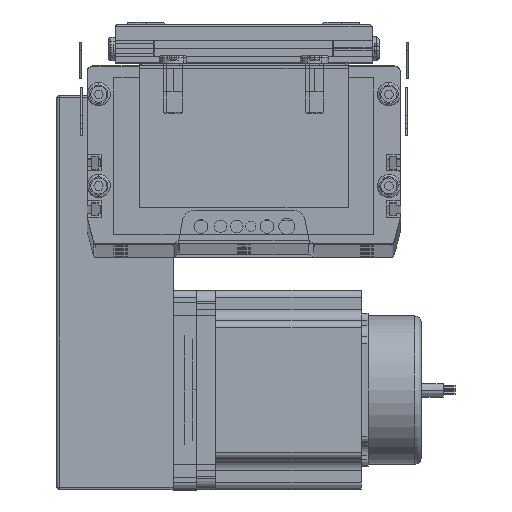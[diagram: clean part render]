
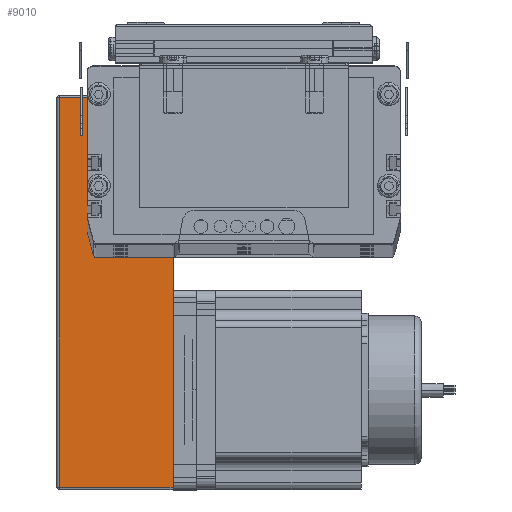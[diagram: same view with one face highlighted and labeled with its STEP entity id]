
A CAD part, top view. The second image highlights one B-rep face of the part: STEP entity #9010.
In plain terms, the highlighted planar face has unit normal (0, 0, 1) as drawn and (0, -1, 0) by its records, which use the part's own axes.
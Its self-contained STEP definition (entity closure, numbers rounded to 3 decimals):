
#6693 = CARTESIAN_POINT ( 'NONE',  ( 80.482, 0., 0. ) ) ;
#8564 = ORIENTED_EDGE ( 'NONE', *, *, #8994, .T. ) ;
#8566 = ORIENTED_EDGE ( 'NONE', *, *, #9018, .T. ) ;
#8567 = VERTEX_POINT ( 'NONE', #27065 ) ;
#8568 = VERTEX_POINT ( 'NONE', #27397 ) ;
#8612 = VERTEX_POINT ( 'NONE', #27637 ) ;
#8618 = ORIENTED_EDGE ( 'NONE', *, *, #8804, .T. ) ;
#8619 = EDGE_LOOP ( 'NONE', ( #8781, #8801, #8916, #8618, #9032, #8900, #8566, #8564, #8886 ) ) ;
#8620 = EDGE_CURVE ( 'NONE', #14454, #14455, #27584, .T. ) ;
#8680 = VERTEX_POINT ( 'NONE', #28359 ) ;
#8702 = VERTEX_POINT ( 'NONE', #28637 ) ;
#8717 = EDGE_CURVE ( 'NONE', #8702, #8680, #28484, .T. ) ;
#8781 = ORIENTED_EDGE ( 'NONE', *, *, #8798, .T. ) ;
#8798 = EDGE_CURVE ( 'NONE', #8612, #14454, #28948, .T. ) ;
#8801 = ORIENTED_EDGE ( 'NONE', *, *, #8620, .T. ) ;
#8803 = EDGE_CURVE ( 'NONE', #14455, #50416, #29026, .T. ) ;
#8804 = EDGE_CURVE ( 'NONE', #50416, #14389, #29009, .T. ) ;
#8881 = EDGE_CURVE ( 'NONE', #8567, #8612, #29182, .T. ) ;
#8886 = ORIENTED_EDGE ( 'NONE', *, *, #8881, .T. ) ;
#8900 = ORIENTED_EDGE ( 'NONE', *, *, #8717, .T. ) ;
#8916 = ORIENTED_EDGE ( 'NONE', *, *, #8803, .T. ) ;
#8994 = EDGE_CURVE ( 'NONE', #8568, #8567, #30841, .T. ) ;
#9010 = ADVANCED_FACE ( 'NONE', ( #31096 ), #31098, .F. ) ;
#9018 = EDGE_CURVE ( 'NONE', #8680, #8568, #31190, .T. ) ;
#9026 = EDGE_CURVE ( 'NONE', #14389, #8702, #31170, .T. ) ;
#9032 = ORIENTED_EDGE ( 'NONE', *, *, #9026, .T. ) ;
#11348 = CARTESIAN_POINT ( 'NONE',  ( 74.998, 0., 0. ) ) ;
#14389 = VERTEX_POINT ( 'NONE', #6693 ) ;
#14454 = VERTEX_POINT ( 'NONE', #105485 ) ;
#14455 = VERTEX_POINT ( 'NONE', #105490 ) ;
#27065 = CARTESIAN_POINT ( 'NONE',  ( 1., 0., 49. ) ) ;
#27397 = CARTESIAN_POINT ( 'NONE',  ( 169., 0., 49. ) ) ;
#27576 = DIRECTION ( 'NONE',  ( 1., 0., 0. ) ) ;
#27577 = VECTOR ( 'NONE', #27576, 1000. ) ;
#27579 = CARTESIAN_POINT ( 'NONE',  ( 0., 0., 0. ) ) ;
#27584 = LINE ( 'NONE', #27579, #27577 ) ;
#27637 = CARTESIAN_POINT ( 'NONE',  ( 1., 0., 0. ) ) ;
#28359 = CARTESIAN_POINT ( 'NONE',  ( 169., 0., 0. ) ) ;
#28479 = DIRECTION ( 'NONE',  ( 1., 0., 0. ) ) ;
#28481 = VECTOR ( 'NONE', #28479, 1000. ) ;
#28482 = CARTESIAN_POINT ( 'NONE',  ( 0., 0., 0. ) ) ;
#28484 = LINE ( 'NONE', #28482, #28481 ) ;
#28637 = CARTESIAN_POINT ( 'NONE',  ( 85.9, 0., 0. ) ) ;
#28936 = DIRECTION ( 'NONE',  ( 1., 0., 0. ) ) ;
#28948 = LINE ( 'NONE', #28950, #28959 ) ;
#28950 = CARTESIAN_POINT ( 'NONE',  ( 0., 0., 0. ) ) ;
#28959 = VECTOR ( 'NONE', #28936, 1000. ) ;
#29002 = DIRECTION ( 'NONE',  ( 1., 0., 0. ) ) ;
#29003 = VECTOR ( 'NONE', #29002, 1000. ) ;
#29005 = CARTESIAN_POINT ( 'NONE',  ( 0., 0., 0. ) ) ;
#29009 = LINE ( 'NONE', #29005, #29003 ) ;
#29012 = DIRECTION ( 'NONE',  ( 1., 0., 0. ) ) ;
#29024 = VECTOR ( 'NONE', #29012, 1000. ) ;
#29025 = CARTESIAN_POINT ( 'NONE',  ( 0., 0., 0. ) ) ;
#29026 = LINE ( 'NONE', #29025, #29024 ) ;
#29181 = CARTESIAN_POINT ( 'NONE',  ( 1., 0., 50. ) ) ;
#29182 = LINE ( 'NONE', #29181, #29274 ) ;
#29273 = DIRECTION ( 'NONE',  ( 0., 0., -1. ) ) ;
#29274 = VECTOR ( 'NONE', #29273, 1000. ) ;
#30841 = LINE ( 'NONE', #31052, #31104 ) ;
#31052 = CARTESIAN_POINT ( 'NONE',  ( 0., 0., 49. ) ) ;
#31088 = AXIS2_PLACEMENT_3D ( 'NONE', #31202, #31200, #31198 ) ;
#31096 = FACE_OUTER_BOUND ( 'NONE', #8619, .T. ) ;
#31098 = PLANE ( 'NONE',  #31088 ) ;
#31103 = DIRECTION ( 'NONE',  ( -1., 0., 0. ) ) ;
#31104 = VECTOR ( 'NONE', #31103, 1000. ) ;
#31170 = LINE ( 'NONE', #31237, #31235 ) ;
#31176 = DIRECTION ( 'NONE',  ( 0., 0., 1. ) ) ;
#31177 = VECTOR ( 'NONE', #31176, 1000. ) ;
#31188 = CARTESIAN_POINT ( 'NONE',  ( 169., 0., 50. ) ) ;
#31190 = LINE ( 'NONE', #31188, #31177 ) ;
#31198 = DIRECTION ( 'NONE',  ( 0., 0., 1. ) ) ;
#31200 = DIRECTION ( 'NONE',  ( 0., 1., 0. ) ) ;
#31202 = CARTESIAN_POINT ( 'NONE',  ( 0., 0., 50. ) ) ;
#31234 = DIRECTION ( 'NONE',  ( 1., 0., 0. ) ) ;
#31235 = VECTOR ( 'NONE', #31234, 1000. ) ;
#31237 = CARTESIAN_POINT ( 'NONE',  ( 0., 0., 0. ) ) ;
#50416 = VERTEX_POINT ( 'NONE', #11348 ) ;
#105485 = CARTESIAN_POINT ( 'NONE',  ( 5.418, 0., 0. ) ) ;
#105490 = CARTESIAN_POINT ( 'NONE',  ( 10.902, 0., 0. ) ) ;
